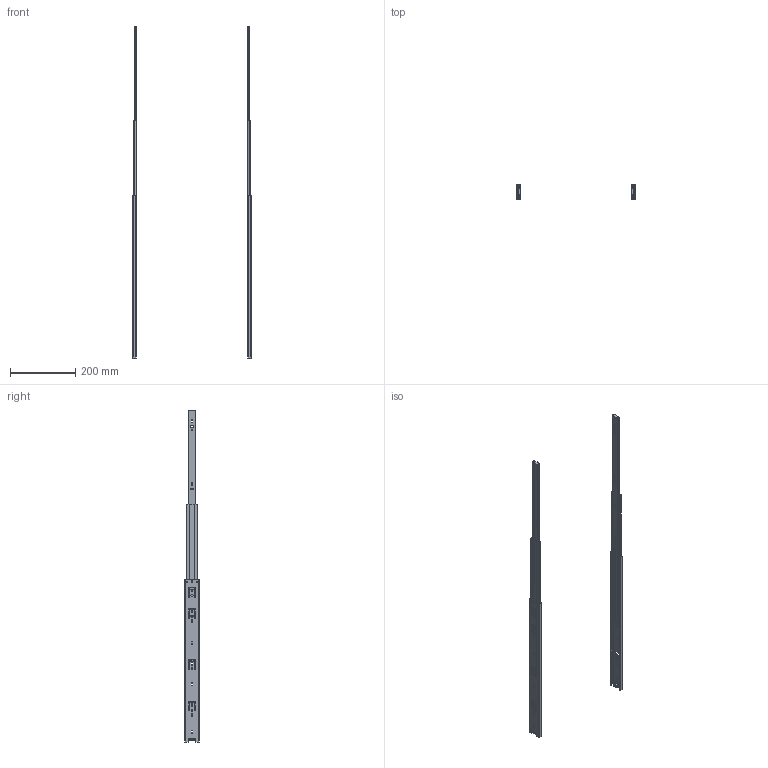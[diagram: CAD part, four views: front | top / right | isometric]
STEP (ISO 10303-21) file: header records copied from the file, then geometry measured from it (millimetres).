
FILE_DESCRIPTION(/* description */ (''),/* implementation_level */ '2;1');
FILE_NAME(/* name */ 'D:\$Workingspace\Designs\Katalog\Cadsoft\GTV Prowadnice\Prowadnice GTV_bryły 3D\PK-0H45500GX_wysunieta.stp',/* time_stamp */ '2016-11-22T11:49:31+01:00',/* author */ ('tomaszw'),/* organization */ (''),/* preprocessor_version */ 'ST-DEVELOPER v16.1',/* originating_system */ 'Autodesk Inventor 2016',/* authorisation */ '');
FILE_SCHEMA (('AUTOMOTIVE_DESIGN { 1 0 10303 214 3 1 1 }'));
Length unit declared in the file: millimetre
Products named in the file (5): Blokada_5; PK-0H45_1-500-GX; PK-0H45_2-500-GX; PK-0H45_3-500-GX; PK-0H45-_-GX
Assembly tree (8 placements, depth 2):
  PK-0H45-_-GX
    Blokada_5  x2
    PK-0H45_1-500-GX  x2
    PK-0H45_2-500-GX  x2
    PK-0H45_3-500-GX  x2
Bounding box: 364 x 44.5 x 1020 mm (x, y, z)
Volume: 149744.3 mm3; surface area: 305566.3 mm2
Topology: 8 solids, 8 shells, 508 faces, 1468 edges, 976 vertices
Faces by surface type: cylinder 260, plane 244, cone 4
Full cylindrical faces by diameter (mm): 4.5 x4, 5 x2, 5.1 x2, 6 x8, 7 x4
Entity records: 8911 total; most frequent: DIRECTION 1508, CARTESIAN_POINT 1505, ORIENTED_EDGE 1448, EDGE_CURVE 724, AXIS2_PLACEMENT_3D 525, VERTEX_POINT 488, LINE 458, VECTOR 458
